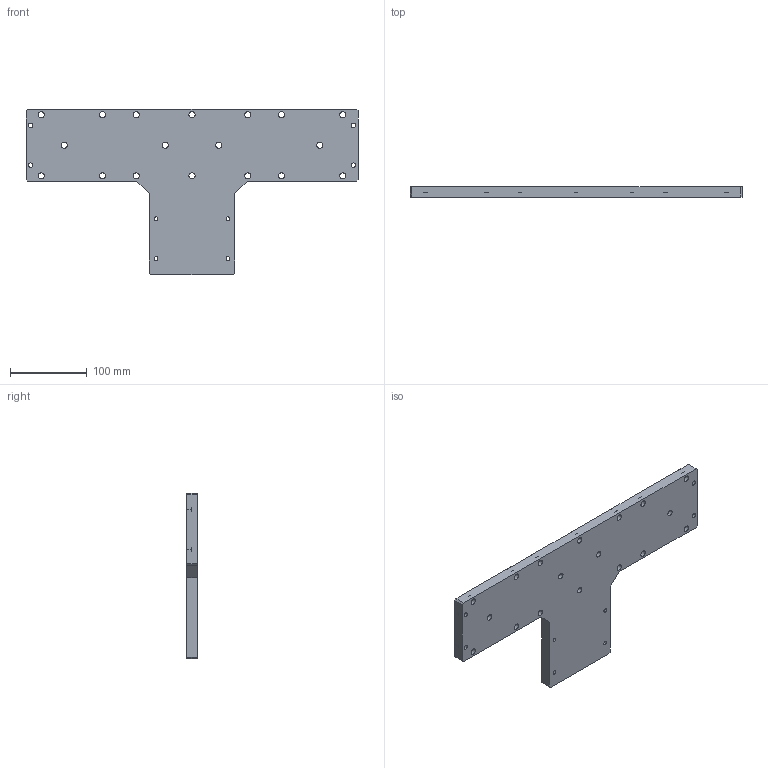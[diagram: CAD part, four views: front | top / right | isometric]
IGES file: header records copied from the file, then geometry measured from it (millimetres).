
Start section:  PTC IGES file: k80-k100l-ft.igs
Global section: file name: k80-k100l-ft.igs; native system: Pro/ENGINEER by Parametric Technology Corporation; preprocessor: 2008230; author: Owner; organization: Unknown; date: 20121212.111224; units: millimetre
Bounding box: 434 x 14 x 216 mm (x, y, z)
Surface area: 136414.2 mm2 (no closed solid volume)
Topology: 0 solids, 0 shells, 136 faces, 724 edges, 714 vertices
Faces by surface type: revolution 96, bspline 40
